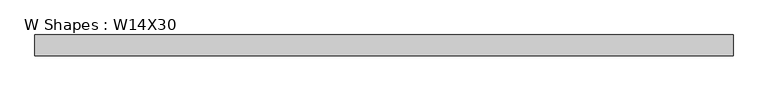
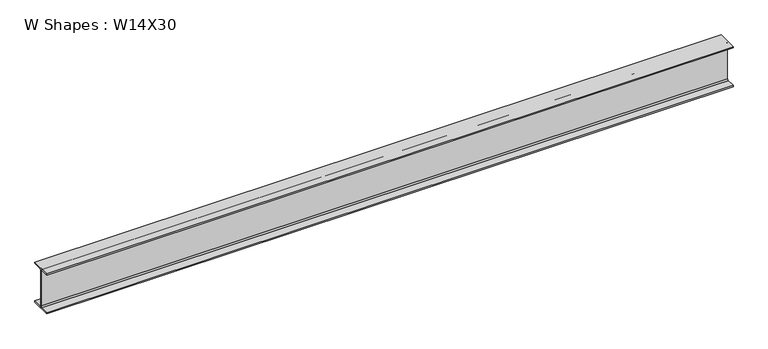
"""IFC4 building model written with IfcOpenShell, lengths in millimetres: beam geometry, W Shapes : W14X30."""

from ifc_helpers import new_model, si_unit, point, frame, frame_2d, origin, place, context, project, spatial, polyline, circle_curve, trimmed, segment, composite_curve, outline, extrude, source, transform, mapped, element, save


def w_shapes_w14x30_640f1b9c(model_context):
    return source(origin(), model_context, "Body", "SweptSolid", [
        extrude(outline(composite_curve([segment(polyline([(85.471, -165.481), (85.471, -175.26), (-85.471, -175.26), (-85.471, -165.481), (-13.589, -165.481)]), True, "CONTINUOUS"), segment(trimmed(circle_curve(frame_2d((-13.589, -155.321)), 10.16), [point((-13.589, -165.481))], [point((-3.429, -155.321))], True, "CARTESIAN"), True, "CONTINUOUS"), segment(polyline([(-3.429, -155.321), (-3.429, 155.321)]), True, "CONTINUOUS"), segment(trimmed(circle_curve(frame_2d((-13.589, 155.321)), 10.16), [point((-3.429, 155.321))], [point((-13.589, 165.481))], True, "CARTESIAN"), True, "CONTINUOUS"), segment(polyline([(-13.589, 165.481), (-85.471, 165.481), (-85.471, 175.26), (85.471, 175.26), (85.471, 165.481), (13.589, 165.481)]), True, "CONTINUOUS"), segment(trimmed(circle_curve(frame_2d((13.589, 155.321)), 10.16), [point((13.589, 165.481))], [point((3.429, 155.321))], True, "CARTESIAN"), True, "CONTINUOUS"), segment(polyline([(3.429, 155.321), (3.429, -155.321)]), True, "CONTINUOUS"), segment(trimmed(circle_curve(frame_2d((13.589, -155.321)), 10.16), [point((3.429, -155.321))], [point((13.589, -165.481))], True, "CARTESIAN"), True, "CONTINUOUS"), segment(polyline([(13.589, -165.481), (85.471, -165.481)]), True, "CONTINUOUS")], self_intersect=False)), frame((-2867.279, 0.0, 0.0), z_axis=(1.0, 0.0, 0.0), x_axis=(0.0, 1.0, 0.0)), (0.0, 0.0, 1.0), 5705.729),
    ])


if __name__ == "__main__":
    model = new_model("IFC4")
    model_context = context("Model", 3, world=origin())
    ifc_project = project(units=[si_unit("LENGTHUNIT", "METRE", prefix="MILLI")], contexts=[model_context])
    site = spatial("IfcSite", under=ifc_project)
    building = spatial("IfcBuilding", under=site)
    placement = place(None, origin())
    w_shapes_w14x30_shape = w_shapes_w14x30_640f1b9c(model_context)
    element("IfcBeam", 1, ObjectType="W Shapes : W14X30", at=placement, inside=building, context=model_context, shape_type="MappedRepresentation", body=[
        mapped(w_shapes_w14x30_shape, transform((0.0, 0.0, 0.0), x_axis=(1.0, 0.0, 0.0), y_axis=(0.0, 1.0, 0.0), z_axis=(0.0, 0.0, 1.0))),
    ])
    save(model, "model.ifc")
